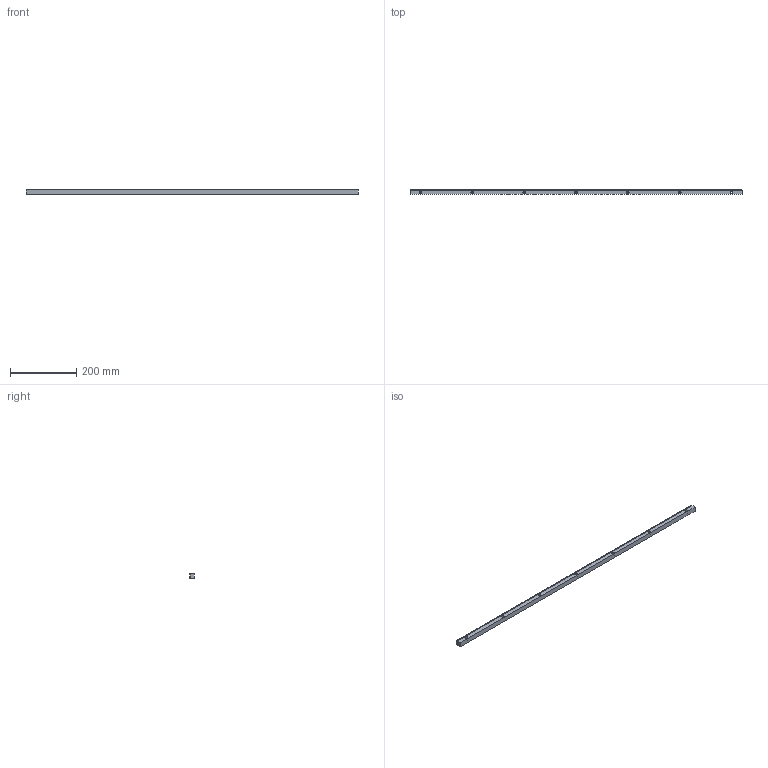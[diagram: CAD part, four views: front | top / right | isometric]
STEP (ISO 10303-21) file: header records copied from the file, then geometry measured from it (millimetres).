
FILE_DESCRIPTION(/* description */ ('www.motedis.com/part/9775','CAx-IF Rec.Pracs.---Representation and Presentation of Product Manufacturing Information (PMI)---4.0---2014-10-13'),/* implementation_level */ '2;1');
FILE_NAME(/* name */ 'Motedis_9775.stp',/* time_stamp */ '2026-09-24T15:46:47+02:00',/* author */ ('Motedis'),/* organization */ ('Motedis GmbH'),/* preprocessor_version */ 'ST-DEVELOPER v20.1',/* originating_system */ 'Autodesk Inventor 2026',/* authorisation */ 'Motedis GmbH');
FILE_SCHEMA (('AP242_MANAGED_MODEL_BASED_3D_ENGINEERING_MIM_LF { 1 0 10303 442 2 1 4 }'));
Length unit declared in the file: millimetre
Products named in the file (1): Motedis_9775
Bounding box: 999.03 x 15 x 15 mm (x, y, z)
Volume: 205784.7 mm3; surface area: 74710.2 mm2
Topology: 1 solids, 1 shells, 1299 faces, 3870 edges, 2580 vertices
Faces by surface type: plane 1285, cylinder 14
Full cylindrical faces by diameter (mm): 4.3 x7, 8 x7
Entity records: 42885 total; most frequent: CARTESIAN_POINT 7771, ORIENTED_EDGE 7740, DIRECTION 6530, EDGE_CURVE 3870, LINE 3842, VECTOR 3842, VERTEX_POINT 2580, AXIS2_PLACEMENT_3D 1344
